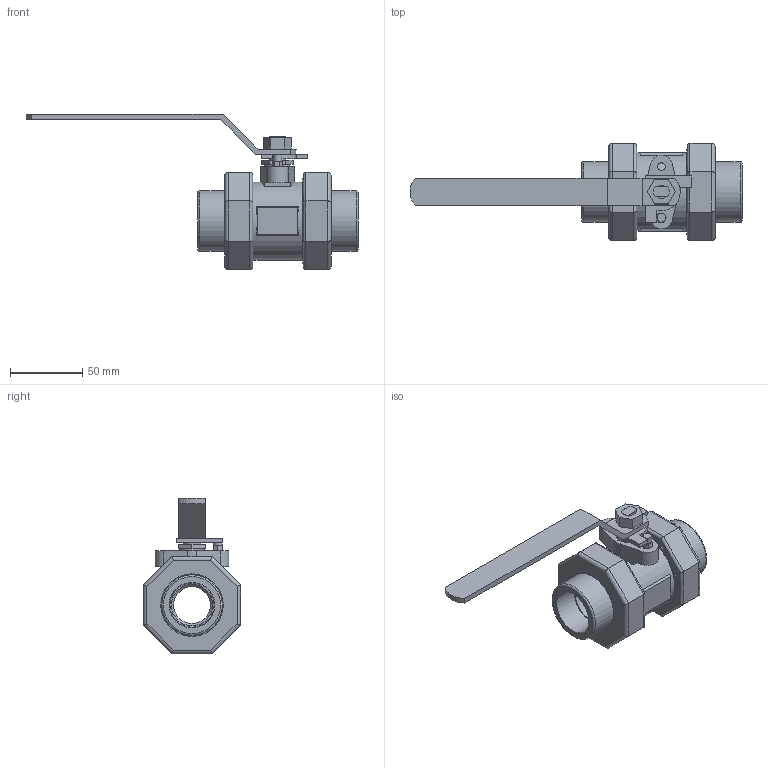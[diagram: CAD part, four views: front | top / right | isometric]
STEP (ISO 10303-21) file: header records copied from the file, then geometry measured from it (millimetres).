
FILE_DESCRIPTION((' '),'2;1');
FILE_NAME('N:\Technical Support\Private\Jomar Valve CAD\Ball Valves\CS and SS\2002N-DUE\1.0 T-CS[SS]-2002N-DUE (100-995 [100-985])FusionCopy.stp.step','2017-01-24T13:04:33',(' '),(' '),' ','ACIS',' ');
FILE_SCHEMA(('CONFIG_CONTROL_DESIGN'));
Length unit declared in the file: inch
Products named in the file (15): N:\Technical Support\Private\Jomar Valve CAD\Ball Valves\CS and SS\2002N-DUE\1.0 T-CS[SS]-2002N-DUE (100-995 [100-985])FusionCopy.stp.step; Body1; Body2; Body3; Body4; Body5; Body6; Body7; Body8; Body9; Body10; Body11; Body12; Body13; Body14
Assembly tree (14 placements, depth 2):
  N:\Technical Support\Private\Jomar Valve CAD\Ball Valves\CS and SS\2002N-DUE\1.0 T-CS[SS]-2002N-DUE (100-995 [100-985])FusionCopy.stp.step
    Body1
    Body2
    Body3
    Body4
    Body5
    Body6
    Body7
    Body8
    Body9
    Body10
    Body11
    Body12
    Body13
    Body14
Bounding box: 229.33 x 67.31 x 107.52 mm (x, y, z)
Volume: 231953.3 mm3; surface area: 80070.6 mm2
Topology: 14 solids, 14 shells, 203 faces, 439 edges, 279 vertices
Faces by surface type: plane 99, cylinder 50, bspline 50, torus 2, cone 2
Full cylindrical faces by diameter (mm): 5.334 x2, 6.02 x1, 6.223 x1, 9.271 x1, 11.938 x1, 17.399 x1, 25.4 x2, 28.702 x1, 34.671 x2, 40.64 x2, 41.91 x1, 42.926 x1, 43.18 x1, 45.212 x1, 49.835 x1, 53.975 x1, 56.617 x1, 58.42 x1
Entity records: 7784 total; most frequent: CARTESIAN_POINT 1411, DIRECTION 897, ORIENTED_EDGE 794, EDGE_CURVE 397, AXIS2_PLACEMENT_3D 320, EDGE_LOOP 279, VERTEX_POINT 272, VECTOR 257
